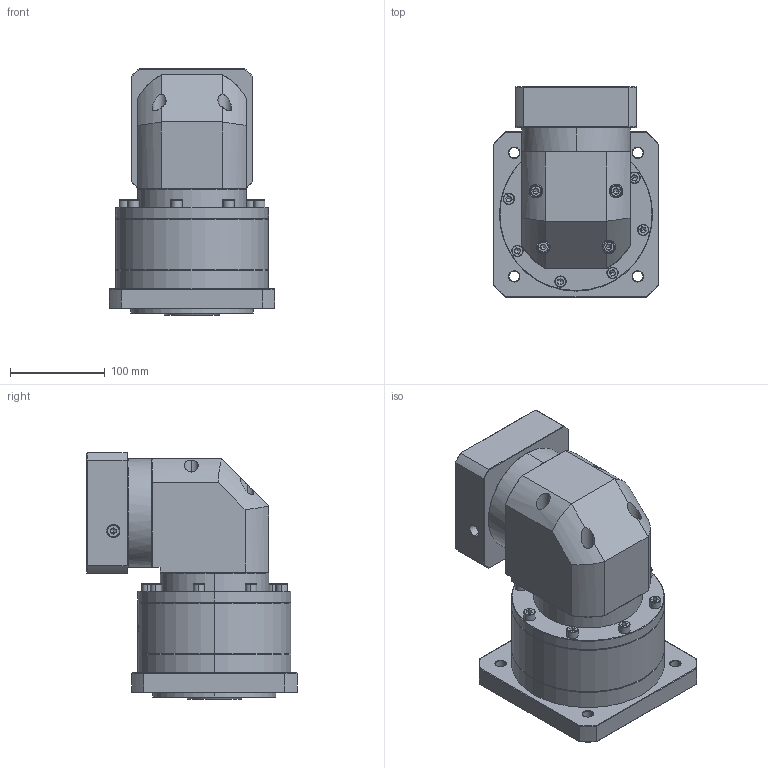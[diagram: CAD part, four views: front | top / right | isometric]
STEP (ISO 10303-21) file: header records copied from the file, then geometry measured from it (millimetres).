
FILE_DESCRIPTION (( 'STEP AP214' ), '1' );
FILE_NAME ('ZFR160A-K35-L2-P2-22-110-145-M8.step', '2023-09-03T09:43:55', ( '' ), ( '' ), 'SwSTEP 2.0', 'SolidWorks 2016', '' );
FILE_SCHEMA (( 'AUTOMOTIVE_DESIGN' ));
Length unit declared in the file: millimetre
Products named in the file (1): ZFR160A-K35-L2-P2-22-110-145-M8
Bounding box: 175 x 222.4 x 261.2 mm (x, y, z)
Volume: 4742996.6 mm3; surface area: 340477.6 mm2
Topology: 6 solids, 6 shells, 2414 faces, 6327 edges, 4039 vertices
Faces by surface type: plane 1139, cylinder 462, bspline 404, cone 365, torus 44
Entity records: 126545 total; most frequent: CARTESIAN_POINT 45663, ORIENTED_EDGE 12550, DIRECTION 9575, EDGE_CURVE 6275, VERTEX_POINT 4039, VECTOR 3381, LINE 3381, AXIS2_PLACEMENT_3D 3097
